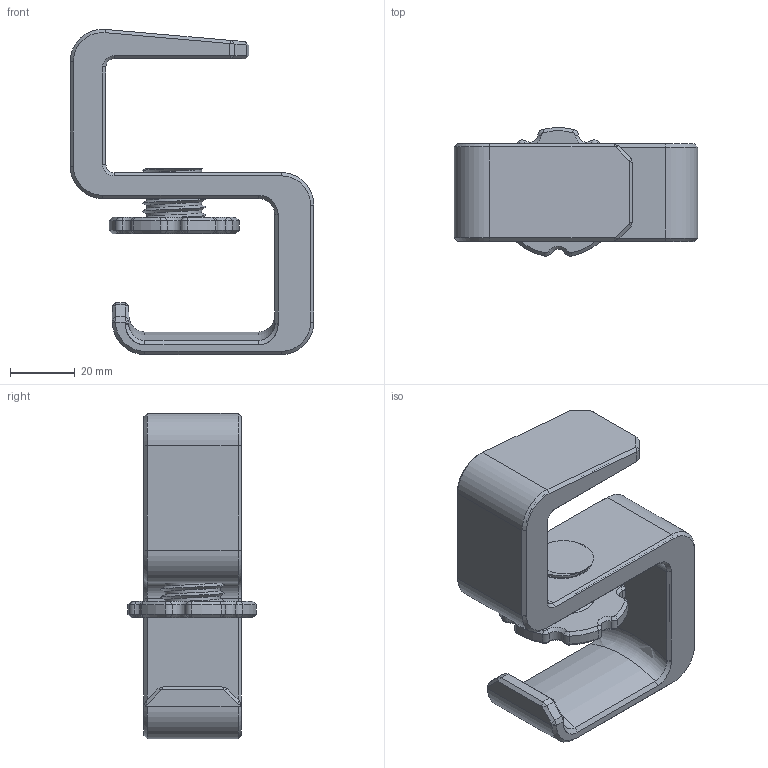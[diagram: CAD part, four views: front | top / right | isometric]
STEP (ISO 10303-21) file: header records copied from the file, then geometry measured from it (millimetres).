
FILE_DESCRIPTION(/* description */ (''),/* implementation_level */ '2;1');
FILE_NAME(/* name */ 'HeadphoneHanger_FullModel.step',/* time_stamp */ '2023-11-05T13:58:17-08:00',/* author */ (''),/* organization */ (''),/* preprocessor_version */ 'ST-DEVELOPER v20',/* originating_system */ 'Autodesk Translation Framework v12.14.0.127',/* authorisation */ '');
FILE_SCHEMA (('AUTOMOTIVE_DESIGN { 1 0 10303 214 3 1 1 }'));
Length unit declared in the file: millimetre
Products named in the file (1): HeadphoneHanger
Bounding box: 75 x 39.53 x 100.06 mm (x, y, z)
Volume: 73458.9 mm3; surface area: 31266.5 mm2
Topology: 4 solids, 4 shells, 317 faces, 744 edges, 436 vertices
Faces by surface type: plane 138, cylinder 85, cone 72, bspline 20, torus 2
Full cylindrical faces by diameter (mm): 16.938 x5, 17.519 x2, 20.293 x3
Entity records: 12580 total; most frequent: CARTESIAN_POINT 5444, ORIENTED_EDGE 1488, DIRECTION 1463, EDGE_CURVE 744, AXIS2_PLACEMENT_3D 501, LINE 461, VECTOR 461, VERTEX_POINT 436
